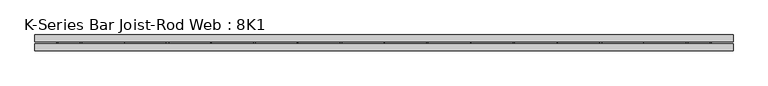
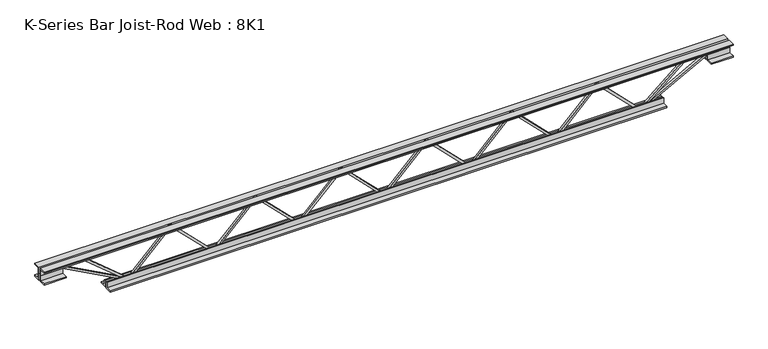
"""IFC4 building model written with IfcOpenShell, lengths in millimetres: beam geometry, K-Series Bar Joist-Rod Web : 8K1."""

from ifc_helpers import new_model, si_unit, frame, origin, place, context, project, spatial, polyline, outline, extrude, source, transform, mapped, element, save


def k_series_bar_joist_rod_web_8k1_218abb50(model_context):
    return source(origin(), model_context, "Body", "SweptSolid", [
        extrude(outline(polyline([(-90.4875, 393.2938636), (-100.0125, 393.2938636), (-100.0125, 398.4430436), (90.4875, 588.7399754), (90.4875, 591.1416154), (-100.0125, 781.4385472), (-100.0125, 786.5877272), (-90.4875, 786.5877272), (-90.4875, 785.3869072), (100.0125, 595.0899754), (100.0125, 584.7916154), (-90.4875, 394.4946836), (-90.4875, 393.2938636)])), frame((0.0, -4.7625, 0.0), z_axis=(0.0, 1.0, 0.0), x_axis=(0.0, 0.0, 1.0)), (0.0, 0.0, 1.0), 9.525),
        extrude(outline(polyline([(-90.4875, 0.0), (-100.0125, 0.0), (-100.0125, 5.14918), (90.4875, 195.4461118), (90.4875, 197.8477518), (-100.0125, 388.1446836), (-100.0125, 393.2938636), (-90.4875, 393.2938636), (-90.4875, 392.0930436), (100.0125, 201.7961118), (100.0125, 191.4977518), (-90.4875, 1.20082), (-90.4875, 0.0)])), frame((0.0, -4.7625, 0.0), z_axis=(0.0, 1.0, 0.0), x_axis=(0.0, 0.0, 1.0)), (0.0, 0.0, 1.0), 9.525),
        extrude(outline(polyline([(-90.4875, -393.2938636), (-100.0125, -393.2938636), (-100.0125, -388.1446836), (90.4875, -197.8477518), (90.4875, -195.4461118), (-100.0125, -5.14918), (-100.0125, 0.0), (-90.4875, 0.0), (-90.4875, -1.20082), (100.0125, -191.4977518), (100.0125, -201.7961118), (-90.4875, -392.0930436), (-90.4875, -393.2938636)])), frame((0.0, -4.7625, 0.0), z_axis=(0.0, 1.0, 0.0), x_axis=(0.0, 0.0, 1.0)), (0.0, 0.0, 1.0), 9.525),
        extrude(outline(polyline([(-90.4875, -786.5877272), (-100.0125, -786.5877272), (-100.0125, -781.4385472), (90.4875, -591.1416154), (90.4875, -588.7399754), (-100.0125, -398.4430436), (-100.0125, -393.2938636), (-90.4875, -393.2938636), (-90.4875, -394.4946836), (100.0125, -584.7916154), (100.0125, -595.0899754), (-90.4875, -785.3869072), (-90.4875, -786.5877272)])), frame((0.0, -4.7625, 0.0), z_axis=(0.0, 1.0, 0.0), x_axis=(0.0, 0.0, 1.0)), (0.0, 0.0, 1.0), 9.525),
        extrude(outline(polyline([(-90.4875, 786.5877272), (-100.0125, 786.5877272), (-100.0125, 791.7369072), (90.4875, 982.033839), (90.4875, 984.435479), (-100.0125, 1174.7324108), (-100.0125, 1179.8815908), (-90.4875, 1179.8815908), (-90.4875, 1178.6807708), (100.0125, 988.383839), (100.0125, 978.085479), (-90.4875, 787.7885472), (-90.4875, 786.5877272)])), frame((0.0, -4.7625, 0.0), z_axis=(0.0, 1.0, 0.0), x_axis=(0.0, 0.0, 1.0)), (0.0, 0.0, 1.0), 9.525),
        extrude(outline(polyline([(-90.4875, -1179.8815908), (-100.0125, -1179.8815908), (-100.0125, -1174.7324108), (90.4875, -984.435479), (90.4875, -982.033839), (-100.0125, -791.7369072), (-100.0125, -786.5877272), (-90.4875, -786.5877272), (-90.4875, -787.7885472), (100.0125, -978.085479), (100.0125, -988.383839), (-90.4875, -1178.6807708), (-90.4875, -1179.8815908)])), frame((0.0, -4.7625, 0.0), z_axis=(0.0, 1.0, 0.0), x_axis=(0.0, 0.0, 1.0)), (0.0, 0.0, 1.0), 9.525),
        extrude(outline(polyline([(4.7625, 101.6), (36.5125, 101.6), (36.5125, 95.25), (11.1125, 95.25), (11.1125, 69.85), (4.7625, 69.85), (4.7625, 101.6)])), frame((-1586.2815908, 0.0, 0.0), z_axis=(1.0, 0.0, 0.0), x_axis=(0.0, 1.0, 0.0)), (0.0, 0.0, 1.0), 3172.5631816),
        extrude(outline(polyline([(-4.7625, 101.6), (-4.7625, 69.85), (-11.1125, 69.85), (-11.1125, 95.25), (-36.5125, 95.25), (-36.5125, 101.6), (-4.7625, 101.6)])), frame((-1586.2815908, 0.0, 0.0), z_axis=(1.0, 0.0, 0.0), x_axis=(0.0, 1.0, 0.0)), (0.0, 0.0, 1.0), 3172.5631816),
        extrude(outline(polyline([(-4.7625, 38.1), (-36.5125, 38.1), (-36.5125, 44.45), (-11.1125, 44.45), (-11.1125, 69.85), (-4.7625, 69.85), (-4.7625, 38.1)])), frame((-1586.2815908, 0.0, 0.0), z_axis=(1.0, 0.0, 0.0), x_axis=(0.0, 1.0, 0.0)), (0.0, 0.0, 1.0), 101.6),
        extrude(outline(polyline([(36.5125, 38.1), (4.7625, 38.1), (4.7625, 69.85), (11.1125, 69.85), (11.1125, 44.45), (36.5125, 44.45), (36.5125, 38.1)])), frame((-1586.2815908, 0.0, 0.0), z_axis=(1.0, 0.0, 0.0), x_axis=(0.0, 1.0, 0.0)), (0.0, 0.0, 1.0), 101.6),
        extrude(outline(polyline([(4.7625, 38.1), (4.7625, 69.85), (11.1125, 69.85), (11.1125, 44.45), (36.5125, 44.45), (36.5125, 38.1), (4.7625, 38.1)])), frame((1484.6815908, 0.0, 0.0), z_axis=(1.0, 0.0, 0.0), x_axis=(0.0, 1.0, 0.0)), (0.0, 0.0, 1.0), 101.6),
        extrude(outline(polyline([(-4.7625, 38.1), (-36.5125, 38.1), (-36.5125, 44.45), (-11.1125, 44.45), (-11.1125, 69.85), (-4.7625, 69.85), (-4.7625, 38.1)])), frame((1484.6815908, 0.0, 0.0), z_axis=(1.0, 0.0, 0.0), x_axis=(0.0, 1.0, 0.0)), (0.0, 0.0, 1.0), 101.6),
        extrude(outline(polyline([(4.7625, -101.6), (4.7625, -69.85), (11.1125, -69.85), (11.1125, -95.25), (36.5125, -95.25), (36.5125, -101.6), (4.7625, -101.6)])), frame((-1281.4815908, 0.0, 0.0), z_axis=(1.0, 0.0, 0.0), x_axis=(0.0, 1.0, 0.0)), (0.0, 0.0, 1.0), 2562.9631816),
        extrude(outline(polyline([(-4.7625, -101.6), (-36.5125, -101.6), (-36.5125, -95.25), (-11.1125, -95.25), (-11.1125, -69.85), (-4.7625, -69.85), (-4.7625, -101.6)])), frame((-1281.4815908, 0.0, 0.0), z_axis=(1.0, 0.0, 0.0), x_axis=(0.0, 1.0, 0.0)), (0.0, 0.0, 1.0), 2562.9631816),
        extrude(outline(polyline([(0.0, -9.525), (0.0, 0.0), (346.6425392, 0.0), (346.6425392, -9.525), (0.0, -9.525)])), frame((-1486.9498893, 4.7625, 65.662372), z_axis=(0.4762831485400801, 0.0, 0.8792919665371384), x_axis=(0.8792919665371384, 0.0, -0.4762831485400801)), (0.0, 0.0, 1.0), 9.525),
        extrude(outline(polyline([(0.0, -9.525), (0.0, 0.0), (256.7645337, 0.0), (256.7645337, -9.525), (0.0, -9.525)])), frame((-1379.5908176, 4.7625, 66.2025686), z_axis=(0.6430015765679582, 0.0, 0.7658648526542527), x_axis=(0.7658648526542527, 0.0, -0.6430015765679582)), (0.0, 0.0, 1.0), 9.525),
        extrude(outline(polyline([(0.0, -9.525), (0.0, 0.0), (346.6425392, 0.0), (346.6425392, -9.525), (0.0, -9.525)])), frame((1486.9498893, -4.7625, 65.662372), z_axis=(-0.4762831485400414, 0.0, 0.8792919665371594), x_axis=(-0.8792919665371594, 0.0, -0.4762831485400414)), (0.0, 0.0, 1.0), 9.525),
        extrude(outline(polyline([(0.0, -9.525), (0.0, 0.0), (256.7645337, 0.0), (256.7645337, -9.525), (0.0, -9.525)])), frame((1379.5908176, -4.7625, 66.2025686), z_axis=(-0.6430015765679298, 0.0, 0.7658648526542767), x_axis=(-0.7658648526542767, 0.0, -0.6430015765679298)), (0.0, 0.0, 1.0), 9.525),
    ])


if __name__ == "__main__":
    model = new_model("IFC4")
    model_context = context("Model", 3, world=origin())
    ifc_project = project(units=[si_unit("LENGTHUNIT", "METRE", prefix="MILLI")], contexts=[model_context])
    site = spatial("IfcSite", under=ifc_project)
    building = spatial("IfcBuilding", under=site)
    placement = place(None, origin())
    k_series_bar_joist_rod_web_8k1_shape = k_series_bar_joist_rod_web_8k1_218abb50(model_context)
    element("IfcBeam", 1, ObjectType="K-Series Bar Joist-Rod Web : 8K1", at=placement, inside=building, context=model_context, shape_type="MappedRepresentation", body=[
        mapped(k_series_bar_joist_rod_web_8k1_shape, transform((0.0, 0.0, 0.0), x_axis=(1.0, 0.0, 0.0), y_axis=(0.0, 1.0, 0.0), z_axis=(0.0, 0.0, 1.0))),
    ])
    save(model, "model.ifc")
